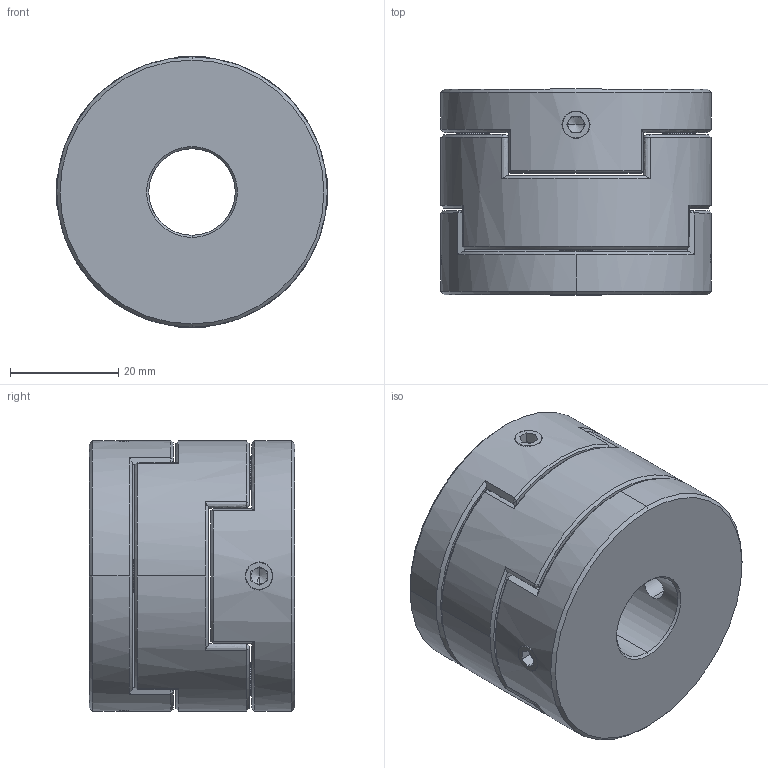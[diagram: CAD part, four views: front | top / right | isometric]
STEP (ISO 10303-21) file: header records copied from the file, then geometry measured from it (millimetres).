
FILE_DESCRIPTION (( 'STEP AP203' ), '1' );
FILE_NAME ('LZ-D-D50L38-16-18.STEP', '2021-10-30T05:47:44', ( '' ), ( '' ), 'SwSTEP 2.0', 'SolidWorks 2018', '' );
FILE_SCHEMA (( 'CONFIG_CONTROL_DESIGN' ));
Length unit declared in the file: millimetre
Products named in the file (1): LZ-D-D50L38-16-18
Bounding box: 50 x 38 x 50 mm (x, y, z)
Volume: 61973.5 mm3; surface area: 18466.5 mm2
Topology: 1 solids, 1 shells, 222 faces, 546 edges, 326 vertices
Faces by surface type: plane 88, bspline 54, cone 54, cylinder 26
Entity records: 7530 total; most frequent: CARTESIAN_POINT 2768, ORIENTED_EDGE 1076, DIRECTION 798, EDGE_CURVE 538, VERTEX_POINT 326, AXIS2_PLACEMENT_3D 289, EDGE_LOOP 248, FACE_OUTER_BOUND 222
